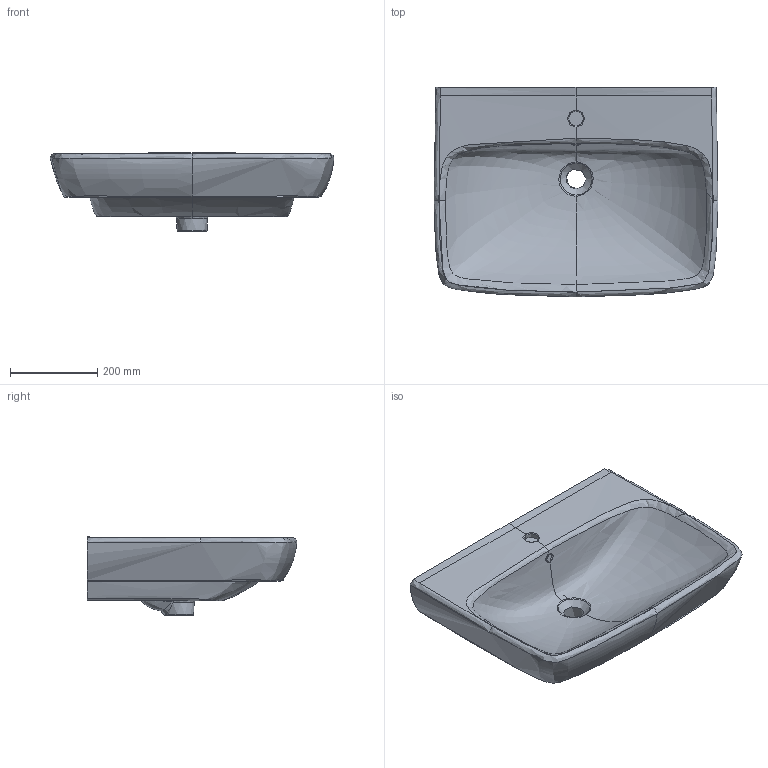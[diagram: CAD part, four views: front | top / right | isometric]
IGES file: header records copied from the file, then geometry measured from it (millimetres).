
Global section: file name: 500299; native system: Autodesk Inventor 2018; preprocessor: unknown; author: JANAN; date: 20200501.052416; units: millimetre
Bounding box: 650.22 x 480 x 180 mm (x, y, z)
Volume: 20184520.9 mm3; surface area: 922706.2 mm2
Topology: 1 solids, 1 shells, 101 faces, 272 edges, 174 vertices
Faces by surface type: bspline 101
